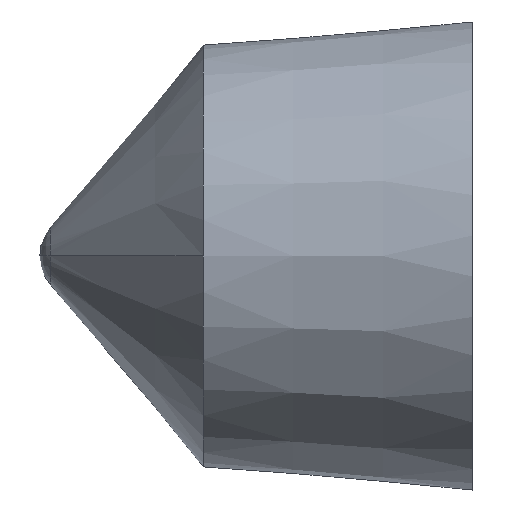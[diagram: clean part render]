
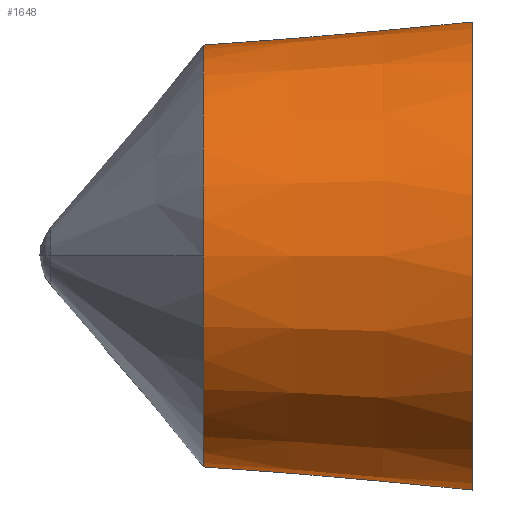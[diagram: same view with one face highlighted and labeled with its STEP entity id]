
A CAD part, left-side view. The second image highlights one B-rep face of the part: STEP entity #1648.
In plain terms, the highlighted conical face has half-angle 5.063 degrees and reference radius 21.012 mm.
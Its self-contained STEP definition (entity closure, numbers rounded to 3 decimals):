
#6 = CARTESIAN_POINT ( 'NONE',  ( 14.668, 2., -14.796 ) ) ;
#43 = CARTESIAN_POINT ( 'NONE',  ( 0., 0., 0. ) ) ;
#66 = B_SPLINE_CURVE_WITH_KNOTS ( 'NONE', 3,
 ( #6, #2821, #4885, #4872 ),
 .UNSPECIFIED., .F., .F.,
 ( 4, 4 ),
 ( 0., 0.002 ),
 .UNSPECIFIED. ) ;
#88 = EDGE_CURVE ( 'NONE', #332, #1447, #66, .T. ) ;
#94 = DIRECTION ( 'NONE',  ( 0., 1., 0. ) ) ;
#123 = EDGE_CURVE ( 'NONE', #1447, #1290, #3509, .T. ) ;
#145 = FACE_OUTER_BOUND ( 'NONE', #3828, .T. ) ;
#183 = DIRECTION ( 'NONE',  ( -1., 0., 0. ) ) ;
#332 = VERTEX_POINT ( 'NONE', #1293 ) ;
#445 = DIRECTION ( 'NONE',  ( 1., 0., 0. ) ) ;
#478 = CARTESIAN_POINT ( 'NONE',  ( 14.945, 0., 14.77 ) ) ;
#865 = CARTESIAN_POINT ( 'NONE',  ( 12.612, 16.764, -14.928 ) ) ;
#895 = CARTESIAN_POINT ( 'NONE',  ( 0., 24.075, 0. ) ) ;
#904 = EDGE_CURVE ( 'NONE', #4556, #1968, #1689, .T. ) ;
#1052 = AXIS2_PLACEMENT_3D ( 'NONE', #895, #3726, #3614 ) ;
#1093 = CARTESIAN_POINT ( 'NONE',  ( 14.761, 1.333, 14.787 ) ) ;
#1126 = CARTESIAN_POINT ( 'NONE',  ( 14.668, 2., 14.796 ) ) ;
#1290 = VERTEX_POINT ( 'NONE', #478 ) ;
#1293 = CARTESIAN_POINT ( 'NONE',  ( 14.668, 2., -14.796 ) ) ;
#1341 = CARTESIAN_POINT ( 'NONE',  ( 11.586, 24.075, -14.906 ) ) ;
#1355 = ORIENTED_EDGE ( 'NONE', *, *, #88, .T. ) ;
#1394 = CARTESIAN_POINT ( 'NONE',  ( 12.612, 16.764, 14.928 ) ) ;
#1435 = CARTESIAN_POINT ( 'NONE',  ( 13.642, 9.392, 14.891 ) ) ;
#1447 = VERTEX_POINT ( 'NONE', #5180 ) ;
#1470 = CARTESIAN_POINT ( 'NONE',  ( 14.945, 0., 14.77 ) ) ;
#1558 =( BOUNDED_CURVE ( )  B_SPLINE_CURVE ( 3, ( #3345, #4128, #865, #2479 ),
 .UNSPECIFIED., .F., .F. ) 
 B_SPLINE_CURVE_WITH_KNOTS ( ( 4, 4 ),
 ( 1.571, 1.719 ),
 .UNSPECIFIED. ) 
 CURVE ( )  GEOMETRIC_REPRESENTATION_ITEM ( )  RATIONAL_B_SPLINE_CURVE ( ( 1., 0.998, 0.998, 1. ) ) 
 REPRESENTATION_ITEM ( '' )  );
#1648 = ADVANCED_FACE ( 'NONE', ( #145 ), #3487, .T. ) ;
#1689 =( BOUNDED_CURVE ( )  B_SPLINE_CURVE ( 3, ( #2648, #1435, #1394, #1778 ),
 .UNSPECIFIED., .F., .F. ) 
 B_SPLINE_CURVE_WITH_KNOTS ( ( 4, 4 ),
 ( 1.571, 1.719 ),
 .UNSPECIFIED. ) 
 CURVE ( )  GEOMETRIC_REPRESENTATION_ITEM ( )  RATIONAL_B_SPLINE_CURVE ( ( 1., 0.998, 0.998, 1. ) ) 
 REPRESENTATION_ITEM ( '' )  );
#1778 = CARTESIAN_POINT ( 'NONE',  ( 11.586, 24.075, 14.906 ) ) ;
#1818 = DIRECTION ( 'NONE',  ( 0., 1., 0. ) ) ;
#1968 = VERTEX_POINT ( 'NONE', #4921 ) ;
#2315 = AXIS2_PLACEMENT_3D ( 'NONE', #4252, #1818, #183 ) ;
#2392 = VERTEX_POINT ( 'NONE', #4137 ) ;
#2425 = VERTEX_POINT ( 'NONE', #1341 ) ;
#2441 = CARTESIAN_POINT ( 'NONE',  ( 14.853, 0.667, 14.779 ) ) ;
#2450 = ORIENTED_EDGE ( 'NONE', *, *, #4526, .F. ) ;
#2477 = DIRECTION ( 'NONE',  ( 0., -1., 0. ) ) ;
#2479 = CARTESIAN_POINT ( 'NONE',  ( 11.586, 24.075, -14.906 ) ) ;
#2648 = CARTESIAN_POINT ( 'NONE',  ( 14.668, 2., 14.796 ) ) ;
#2702 = ORIENTED_EDGE ( 'NONE', *, *, #4015, .T. ) ;
#2783 = ORIENTED_EDGE ( 'NONE', *, *, #2920, .F. ) ;
#2821 = CARTESIAN_POINT ( 'NONE',  ( 14.761, 1.333, -14.787 ) ) ;
#2886 = ORIENTED_EDGE ( 'NONE', *, *, #3790, .F. ) ;
#2920 = EDGE_CURVE ( 'NONE', #2392, #1968, #3864, .T. ) ;
#3305 = CARTESIAN_POINT ( 'NONE',  ( 14.668, 2., 14.796 ) ) ;
#3345 = CARTESIAN_POINT ( 'NONE',  ( 14.668, 2., -14.796 ) ) ;
#3487 = CONICAL_SURFACE ( 'NONE', #4444, 21.012, 0.088 ) ;
#3509 = CIRCLE ( 'NONE', #4497, 21.012 ) ;
#3614 = DIRECTION ( 'NONE',  ( -1., 0., 0. ) ) ;
#3724 = CARTESIAN_POINT ( 'NONE',  ( 0., 0., 0. ) ) ;
#3726 = DIRECTION ( 'NONE',  ( 0., 1., 0. ) ) ;
#3790 = EDGE_CURVE ( 'NONE', #2425, #2392, #4213, .T. ) ;
#3828 = EDGE_LOOP ( 'NONE', ( #2886, #2450, #1355, #4421, #2702, #4725, #2783 ) ) ;
#3864 = CIRCLE ( 'NONE', #1052, 18.879 ) ;
#4015 = EDGE_CURVE ( 'NONE', #1290, #4556, #4344, .T. ) ;
#4035 = DIRECTION ( 'NONE',  ( -1., 0., 0. ) ) ;
#4128 = CARTESIAN_POINT ( 'NONE',  ( 13.642, 9.392, -14.891 ) ) ;
#4137 = CARTESIAN_POINT ( 'NONE',  ( -18.879, 24.075, 0. ) ) ;
#4213 = CIRCLE ( 'NONE', #2315, 18.879 ) ;
#4252 = CARTESIAN_POINT ( 'NONE',  ( 0., 24.075, 0. ) ) ;
#4344 = B_SPLINE_CURVE_WITH_KNOTS ( 'NONE', 3,
 ( #1470, #2441, #1093, #1126 ),
 .UNSPECIFIED., .F., .F.,
 ( 4, 4 ),
 ( 0., 0.002 ),
 .UNSPECIFIED. ) ;
#4421 = ORIENTED_EDGE ( 'NONE', *, *, #123, .T. ) ;
#4444 = AXIS2_PLACEMENT_3D ( 'NONE', #43, #2477, #445 ) ;
#4497 = AXIS2_PLACEMENT_3D ( 'NONE', #3724, #94, #4035 ) ;
#4526 = EDGE_CURVE ( 'NONE', #332, #2425, #1558, .T. ) ;
#4556 = VERTEX_POINT ( 'NONE', #3305 ) ;
#4725 = ORIENTED_EDGE ( 'NONE', *, *, #904, .T. ) ;
#4872 = CARTESIAN_POINT ( 'NONE',  ( 14.945, 0., -14.77 ) ) ;
#4885 = CARTESIAN_POINT ( 'NONE',  ( 14.853, 0.667, -14.779 ) ) ;
#4921 = CARTESIAN_POINT ( 'NONE',  ( 11.586, 24.075, 14.906 ) ) ;
#5180 = CARTESIAN_POINT ( 'NONE',  ( 14.945, 0., -14.77 ) ) ;
